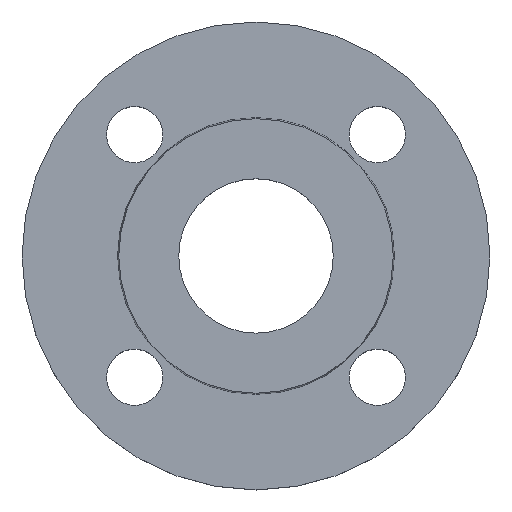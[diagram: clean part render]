
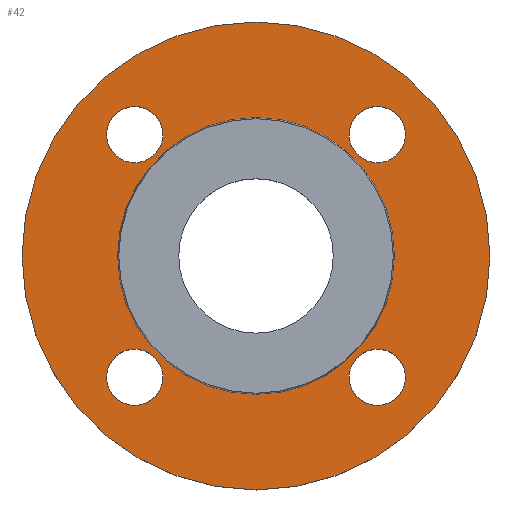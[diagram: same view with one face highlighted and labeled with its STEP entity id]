
A CAD part, top view. The second image highlights one B-rep face of the part: STEP entity #42.
In plain terms, the highlighted planar face has unit normal (0, 0, 1).
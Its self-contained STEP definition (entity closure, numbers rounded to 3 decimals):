
#3 = EDGE_CURVE ( 'NONE', #378, #360, #140, .T. ) ;
#5 = EDGE_CURVE ( 'NONE', #377, #346, #48, .T. ) ;
#7 = AXIS2_PLACEMENT_3D ( 'NONE', #542, #543, #544 ) ;
#11 = DIRECTION ( 'NONE',  ( 0., 0., -1. ) ) ;
#12 = DIRECTION ( 'NONE',  ( 1., 0., 0. ) ) ;
#21 = AXIS2_PLACEMENT_3D ( 'NONE', #571, #11, #12 ) ;
#25 = CARTESIAN_POINT ( 'NONE',  ( -38.891, 38.891, -2. ) ) ;
#27 = EDGE_CURVE ( 'NONE', #365, #309, #199, .T. ) ;
#31 = AXIS2_PLACEMENT_3D ( 'NONE', #422, #423, #424 ) ;
#38 = CIRCLE ( 'NONE', #60, 9. ) ;
#41 = EDGE_CURVE ( 'NONE', #360, #378, #507, .T. ) ;
#42 = ADVANCED_FACE ( 'NONE', ( #415, #416, #417, #418, #419, #420 ), #421, .T. ) ;
#47 = DIRECTION ( 'NONE',  ( 0., 0., -1. ) ) ;
#48 = CIRCLE ( 'NONE', #467, 44.353 ) ;
#51 = CIRCLE ( 'NONE', #21, 9. ) ;
#54 = AXIS2_PLACEMENT_3D ( 'NONE', #513, #514, #515 ) ;
#58 = AXIS2_PLACEMENT_3D ( 'NONE', #384, #385, #386 ) ;
#60 = AXIS2_PLACEMENT_3D ( 'NONE', #497, #498, #499 ) ;
#67 = EDGE_CURVE ( 'NONE', #349, #359, #256, .T. ) ;
#83 = EDGE_CURVE ( 'NONE', #359, #349, #38, .T. ) ;
#86 = AXIS2_PLACEMENT_3D ( 'NONE', #25, #47, #94 ) ;
#87 = EDGE_LOOP ( 'NONE', ( #274, #275 ) ) ;
#88 = EDGE_LOOP ( 'NONE', ( #284, #285 ) ) ;
#94 = DIRECTION ( 'NONE',  ( 1., 0., 0. ) ) ;
#109 = CARTESIAN_POINT ( 'NONE',  ( 75., 0., -2. ) ) ;
#111 = CARTESIAN_POINT ( 'NONE',  ( -75., 0., -2. ) ) ;
#116 = EDGE_CURVE ( 'NONE', #346, #377, #130, .T. ) ;
#118 = CARTESIAN_POINT ( 'NONE',  ( -29.891, -38.891, -2. ) ) ;
#119 = CARTESIAN_POINT ( 'NONE',  ( -29.891, 38.891, -2. ) ) ;
#130 = CIRCLE ( 'NONE', #54, 44.353 ) ;
#133 = CIRCLE ( 'NONE', #86, 9. ) ;
#136 = AXIS2_PLACEMENT_3D ( 'NONE', #412, #413, #414 ) ;
#140 = CIRCLE ( 'NONE', #58, 9. ) ;
#141 = EDGE_CURVE ( 'NONE', #296, #272, #257, .T. ) ;
#148 = CARTESIAN_POINT ( 'NONE',  ( 44.353, 0., -2. ) ) ;
#152 = CARTESIAN_POINT ( 'NONE',  ( -47.891, 38.891, -2. ) ) ;
#153 = CARTESIAN_POINT ( 'NONE',  ( 29.891, -38.891, -2. ) ) ;
#156 = CARTESIAN_POINT ( 'NONE',  ( 47.891, -38.891, -2. ) ) ;
#159 = CARTESIAN_POINT ( 'NONE',  ( 47.891, 38.891, -2. ) ) ;
#161 = CARTESIAN_POINT ( 'NONE',  ( -47.891, -38.891, -2. ) ) ;
#163 = AXIS2_PLACEMENT_3D ( 'NONE', #479, #480, #481 ) ;
#174 = CARTESIAN_POINT ( 'NONE',  ( -44.353, 0., -2. ) ) ;
#176 = CARTESIAN_POINT ( 'NONE',  ( 29.891, 38.891, -2. ) ) ;
#199 = CIRCLE ( 'NONE', #223, 9. ) ;
#207 = CIRCLE ( 'NONE', #237, 75. ) ;
#210 = EDGE_CURVE ( 'NONE', #272, #296, #207, .T. ) ;
#213 = EDGE_CURVE ( 'NONE', #309, #365, #51, .T. ) ;
#221 = EDGE_CURVE ( 'NONE', #348, #322, #260, .T. ) ;
#223 = AXIS2_PLACEMENT_3D ( 'NONE', #395, #396, #397 ) ;
#236 = EDGE_CURVE ( 'NONE', #322, #348, #133, .T. ) ;
#237 = AXIS2_PLACEMENT_3D ( 'NONE', #565, #566, #567 ) ;
#256 = CIRCLE ( 'NONE', #163, 9. ) ;
#257 = CIRCLE ( 'NONE', #7, 75. ) ;
#260 = CIRCLE ( 'NONE', #572, 9. ) ;
#272 = VERTEX_POINT ( 'NONE', #109 ) ;
#274 = ORIENTED_EDGE ( 'NONE', *, *, #83, .T. ) ;
#275 = ORIENTED_EDGE ( 'NONE', *, *, #67, .T. ) ;
#276 = ORIENTED_EDGE ( 'NONE', *, *, #213, .T. ) ;
#277 = ORIENTED_EDGE ( 'NONE', *, *, #27, .T. ) ;
#278 = ORIENTED_EDGE ( 'NONE', *, *, #236, .T. ) ;
#279 = ORIENTED_EDGE ( 'NONE', *, *, #221, .T. ) ;
#280 = ORIENTED_EDGE ( 'NONE', *, *, #41, .T. ) ;
#281 = ORIENTED_EDGE ( 'NONE', *, *, #3, .T. ) ;
#282 = ORIENTED_EDGE ( 'NONE', *, *, #5, .T. ) ;
#283 = ORIENTED_EDGE ( 'NONE', *, *, #116, .T. ) ;
#284 = ORIENTED_EDGE ( 'NONE', *, *, #210, .F. ) ;
#285 = ORIENTED_EDGE ( 'NONE', *, *, #141, .F. ) ;
#296 = VERTEX_POINT ( 'NONE', #111 ) ;
#309 = VERTEX_POINT ( 'NONE', #118 ) ;
#322 = VERTEX_POINT ( 'NONE', #119 ) ;
#337 = EDGE_LOOP ( 'NONE', ( #282, #283 ) ) ;
#343 = EDGE_LOOP ( 'NONE', ( #276, #277 ) ) ;
#346 = VERTEX_POINT ( 'NONE', #148 ) ;
#348 = VERTEX_POINT ( 'NONE', #152 ) ;
#349 = VERTEX_POINT ( 'NONE', #153 ) ;
#350 = EDGE_LOOP ( 'NONE', ( #278, #279 ) ) ;
#355 = EDGE_LOOP ( 'NONE', ( #280, #281 ) ) ;
#359 = VERTEX_POINT ( 'NONE', #156 ) ;
#360 = VERTEX_POINT ( 'NONE', #159 ) ;
#365 = VERTEX_POINT ( 'NONE', #161 ) ;
#377 = VERTEX_POINT ( 'NONE', #174 ) ;
#378 = VERTEX_POINT ( 'NONE', #176 ) ;
#384 = CARTESIAN_POINT ( 'NONE',  ( 38.891, 38.891, -2. ) ) ;
#385 = DIRECTION ( 'NONE',  ( 0., 0., -1. ) ) ;
#386 = DIRECTION ( 'NONE',  ( 1., 0., 0. ) ) ;
#387 = CARTESIAN_POINT ( 'NONE',  ( 0., 0., -2. ) ) ;
#389 = DIRECTION ( 'NONE',  ( 0., 0., -1. ) ) ;
#390 = DIRECTION ( 'NONE',  ( -1., 0., 0. ) ) ;
#395 = CARTESIAN_POINT ( 'NONE',  ( -38.891, -38.891, -2. ) ) ;
#396 = DIRECTION ( 'NONE',  ( 0., 0., -1. ) ) ;
#397 = DIRECTION ( 'NONE',  ( 1., 0., 0. ) ) ;
#412 = CARTESIAN_POINT ( 'NONE',  ( 38.891, 38.891, -2. ) ) ;
#413 = DIRECTION ( 'NONE',  ( 0., 0., -1. ) ) ;
#414 = DIRECTION ( 'NONE',  ( 1., 0., 0. ) ) ;
#415 = FACE_BOUND ( 'NONE', #87, .T. ) ;
#416 = FACE_BOUND ( 'NONE', #343, .T. ) ;
#417 = FACE_BOUND ( 'NONE', #350, .T. ) ;
#418 = FACE_BOUND ( 'NONE', #355, .T. ) ;
#419 = FACE_BOUND ( 'NONE', #337, .T. ) ;
#420 = FACE_OUTER_BOUND ( 'NONE', #88, .T. ) ;
#421 = PLANE ( 'NONE',  #31 ) ;
#422 = CARTESIAN_POINT ( 'NONE',  ( 44.353, 0., -2. ) ) ;
#423 = DIRECTION ( 'NONE',  ( 0., 0., 1. ) ) ;
#424 = DIRECTION ( 'NONE',  ( 1., 0., 0. ) ) ;
#467 = AXIS2_PLACEMENT_3D ( 'NONE', #387, #389, #390 ) ;
#479 = CARTESIAN_POINT ( 'NONE',  ( 38.891, -38.891, -2. ) ) ;
#480 = DIRECTION ( 'NONE',  ( 0., 0., -1. ) ) ;
#481 = DIRECTION ( 'NONE',  ( 1., 0., 0. ) ) ;
#497 = CARTESIAN_POINT ( 'NONE',  ( 38.891, -38.891, -2. ) ) ;
#498 = DIRECTION ( 'NONE',  ( 0., 0., -1. ) ) ;
#499 = DIRECTION ( 'NONE',  ( 1., 0., 0. ) ) ;
#507 = CIRCLE ( 'NONE', #136, 9. ) ;
#513 = CARTESIAN_POINT ( 'NONE',  ( 0., 0., -2. ) ) ;
#514 = DIRECTION ( 'NONE',  ( 0., 0., -1. ) ) ;
#515 = DIRECTION ( 'NONE',  ( -1., 0., 0. ) ) ;
#542 = CARTESIAN_POINT ( 'NONE',  ( 0., 0., -2. ) ) ;
#543 = DIRECTION ( 'NONE',  ( 0., 0., -1. ) ) ;
#544 = DIRECTION ( 'NONE',  ( -1., 0., 0. ) ) ;
#565 = CARTESIAN_POINT ( 'NONE',  ( 0., 0., -2. ) ) ;
#566 = DIRECTION ( 'NONE',  ( 0., 0., -1. ) ) ;
#567 = DIRECTION ( 'NONE',  ( -1., 0., 0. ) ) ;
#571 = CARTESIAN_POINT ( 'NONE',  ( -38.891, -38.891, -2. ) ) ;
#572 = AXIS2_PLACEMENT_3D ( 'NONE', #575, #576, #577 ) ;
#575 = CARTESIAN_POINT ( 'NONE',  ( -38.891, 38.891, -2. ) ) ;
#576 = DIRECTION ( 'NONE',  ( 0., 0., -1. ) ) ;
#577 = DIRECTION ( 'NONE',  ( 1., 0., 0. ) ) ;
